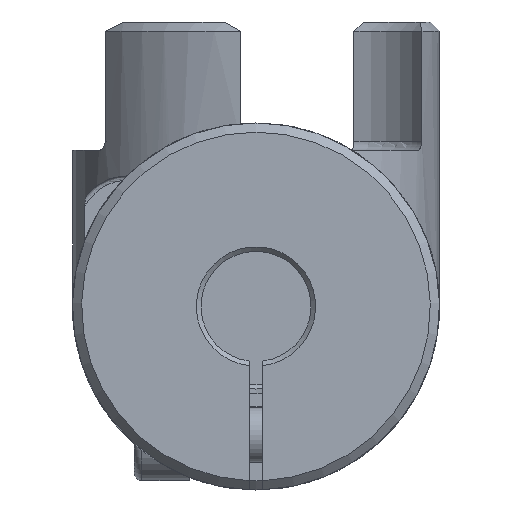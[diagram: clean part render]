
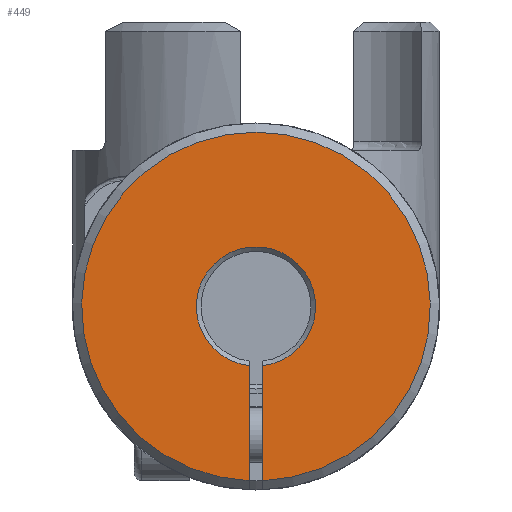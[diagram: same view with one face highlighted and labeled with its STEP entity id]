
A CAD part, front view. The second image highlights one B-rep face of the part: STEP entity #449.
In plain terms, the highlighted planar face has unit normal (0, -1, 0) as drawn and (0, 0, -1) by its records, which use the part's own axes.
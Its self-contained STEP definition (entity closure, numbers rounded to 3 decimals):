
#449 = ADVANCED_FACE( '', ( #873 ), #874, .T. );
#873 = FACE_OUTER_BOUND( '', #1315, .T. );
#874 = PLANE( '', #1316 );
#1315 = EDGE_LOOP( '', ( #2188, #2189, #2190, #2191 ) );
#1316 = AXIS2_PLACEMENT_3D( '', #2192, #2193, #2194 );
#2188 = ORIENTED_EDGE( '', *, *, #3301, .T. );
#2189 = ORIENTED_EDGE( '', *, *, #3299, .T. );
#2190 = ORIENTED_EDGE( '', *, *, #3279, .F. );
#2191 = ORIENTED_EDGE( '', *, *, #3342, .T. );
#2192 = CARTESIAN_POINT( '', ( 0., 0., 0. ) );
#2193 = DIRECTION( '', ( 0., 0., -1. ) );
#2194 = DIRECTION( '', ( -1., 0., 0. ) );
#3279 = EDGE_CURVE( '', #3862, #3863, #3864, .T. );
#3299 = EDGE_CURVE( '', #3896, #3863, #3899, .F. );
#3301 = EDGE_CURVE( '', #3902, #3896, #3903, .T. );
#3342 = EDGE_CURVE( '', #3862, #3902, #3970, .T. );
#3862 = VERTEX_POINT( '', #5094 );
#3863 = VERTEX_POINT( '', #5095 );
#3864 = LINE( '', #5096, #5097 );
#3896 = VERTEX_POINT( '', #5151 );
#3899 = CIRCLE( '', #5157, 6.5 );
#3902 = VERTEX_POINT( '', #5161 );
#3903 = LINE( '', #5162, #5163 );
#3970 = CIRCLE( '', #5292, 19. );
#5094 = CARTESIAN_POINT( '', ( -18.985, 0.75, 0. ) );
#5095 = CARTESIAN_POINT( '', ( -6.457, 0.75, 0. ) );
#5096 = CARTESIAN_POINT( '', ( -20., 0.75, 0. ) );
#5097 = VECTOR( '', #6100, 1000. );
#5151 = CARTESIAN_POINT( '', ( -6.457, -0.75, 0. ) );
#5157 = AXIS2_PLACEMENT_3D( '', #6134, #6135, #6136 );
#5161 = CARTESIAN_POINT( '', ( -18.985, -0.75, 0. ) );
#5162 = CARTESIAN_POINT( '', ( -20., -0.75, 0. ) );
#5163 = VECTOR( '', #6138, 1000. );
#5292 = AXIS2_PLACEMENT_3D( '', #6219, #6220, #6221 );
#6100 = DIRECTION( '', ( 1., 0., 0. ) );
#6134 = CARTESIAN_POINT( '', ( 0., 0., 0. ) );
#6135 = DIRECTION( '', ( 0., 0., -1. ) );
#6136 = DIRECTION( '', ( -1., 0., 0. ) );
#6138 = DIRECTION( '', ( 1., 0., 0. ) );
#6219 = CARTESIAN_POINT( '', ( 0., 0., 0. ) );
#6220 = DIRECTION( '', ( 0., 0., -1. ) );
#6221 = DIRECTION( '', ( -1., 0., 0. ) );
